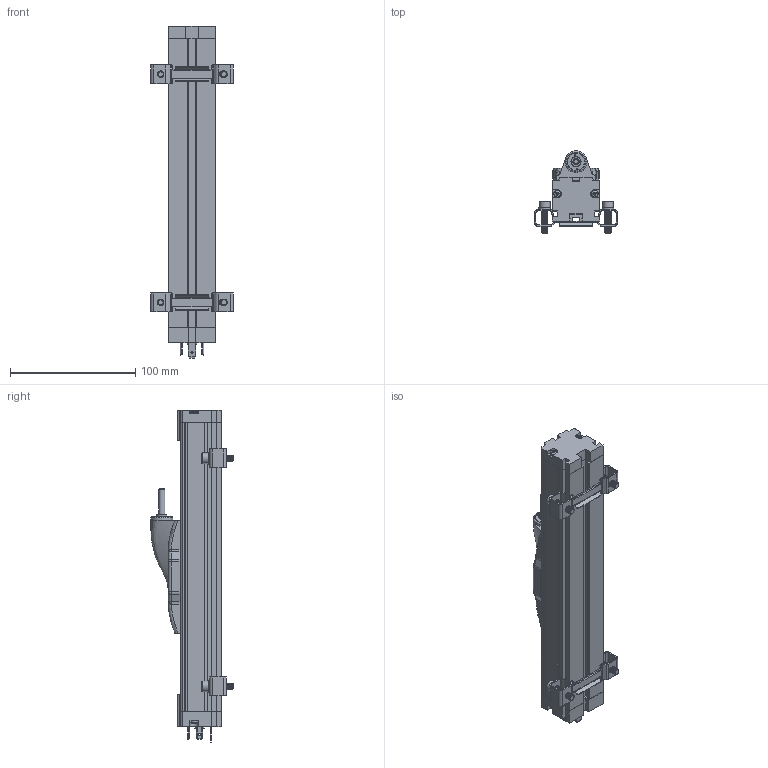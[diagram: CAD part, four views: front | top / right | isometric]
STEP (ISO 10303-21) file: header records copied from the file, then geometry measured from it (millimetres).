
FILE_DESCRIPTION (( 'STEP AP214' ), '1' );
FILE_NAME ('MSL38-100-A Rundstecker 5-polToDo.STEP', '2017-05-30T08:18:02', ( '' ), ( '' ), 'SwSTEP 2.0', 'SolidWorks 2017', '' );
FILE_SCHEMA (( 'AUTOMOTIVE_DESIGN' ));
Length unit declared in the file: millimetre
Products named in the file (2): MSL38-100-A Rundstecker 5-polToDo
Bounding box: 66 x 65.6 x 265 mm (x, y, z)
Surface area: 75528.7 mm2 (no closed solid volume)
Topology: 0 solids, 109 shells, 774 faces, 2535 edges, 1760 vertices
Faces by surface type: plane 360, cylinder 240, cone 124, bspline 29, torus 17, sphere 4
Full cylindrical faces by diameter (mm): 1.3 x2, 1.6 x1, 1.65 x3, 2.5 x1, 3 x4, 5 x87, 5.3 x2, 5.6 x4, 7.5 x1, 8.1 x1, 8.5 x4, 14.3 x1, 17.4 x1
Entity records: 37861 total; most frequent: CARTESIAN_POINT 8377, DIRECTION 4356, ORIENTED_EDGE 3651, EDGE_CURVE 2267, VERTEX_POINT 1741, AXIS2_PLACEMENT_3D 1505, LINE 1346, VECTOR 1346
